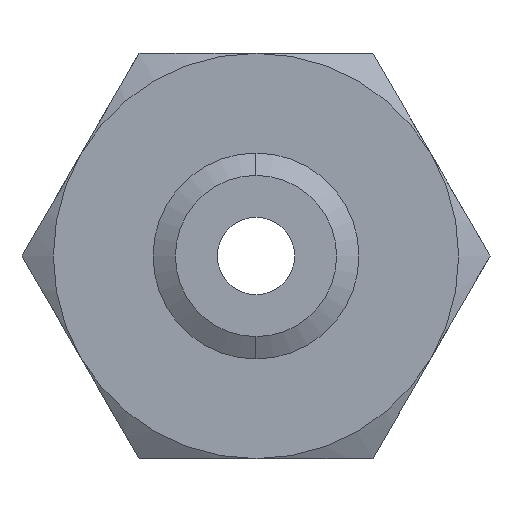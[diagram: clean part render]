
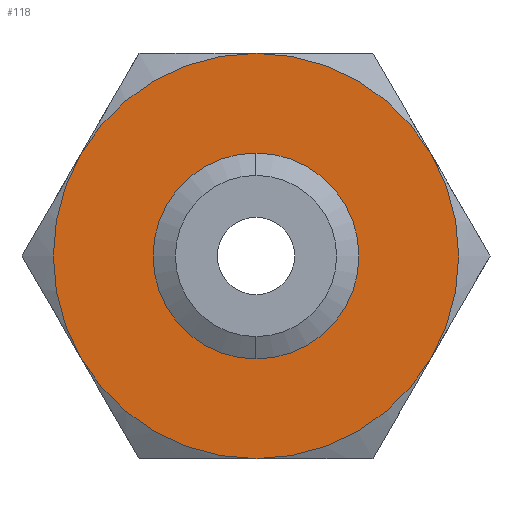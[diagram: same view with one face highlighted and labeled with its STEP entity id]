
A CAD part, front view. The second image highlights one B-rep face of the part: STEP entity #118.
In plain terms, the highlighted planar face has unit normal (0, -1, 0).
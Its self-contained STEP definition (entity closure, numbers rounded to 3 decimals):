
#77 = ORIENTED_EDGE ( 'NONE', *, *, #78, .F. ) ;
#78 = EDGE_CURVE ( 'NONE', #127, #126, #446, .T. ) ;
#79 = ORIENTED_EDGE ( 'NONE', *, *, #80, .F. ) ;
#80 = EDGE_CURVE ( 'NONE', #81, #127, #441, .T. ) ;
#81 = VERTEX_POINT ( 'NONE', #436 ) ;
#82 = ORIENTED_EDGE ( 'NONE', *, *, #83, .F. ) ;
#83 = EDGE_CURVE ( 'NONE', #84, #81, #435, .T. ) ;
#84 = VERTEX_POINT ( 'NONE', #430 ) ;
#101 = ORIENTED_EDGE ( 'NONE', *, *, #104, .F. ) ;
#102 = EDGE_CURVE ( 'NONE', #1844, #1845, #468, .T. ) ;
#103 = EDGE_LOOP ( 'NONE', ( #105, #177 ) ) ;
#104 = EDGE_CURVE ( 'NONE', #123, #84, #463, .T. ) ;
#105 = ORIENTED_EDGE ( 'NONE', *, *, #1851, .F. ) ;
#118 = ADVANCED_FACE ( 'NONE', ( #498, #497 ), #496, .F. ) ;
#119 = EDGE_LOOP ( 'NONE', ( #120, #124, #77, #79, #82, #101 ) ) ;
#120 = ORIENTED_EDGE ( 'NONE', *, *, #121, .F. ) ;
#121 = EDGE_CURVE ( 'NONE', #122, #123, #493, .T. ) ;
#122 = VERTEX_POINT ( 'NONE', #486 ) ;
#123 = VERTEX_POINT ( 'NONE', #485 ) ;
#124 = ORIENTED_EDGE ( 'NONE', *, *, #125, .F. ) ;
#125 = EDGE_CURVE ( 'NONE', #126, #122, #545, .T. ) ;
#126 = VERTEX_POINT ( 'NONE', #540 ) ;
#127 = VERTEX_POINT ( 'NONE', #539 ) ;
#177 = ORIENTED_EDGE ( 'NONE', *, *, #102, .F. ) ;
#430 = CARTESIAN_POINT ( 'NONE',  ( 21.651, 0., -12.5 ) ) ;
#431 = DIRECTION ( 'NONE',  ( 0., 0., 1. ) ) ;
#432 = DIRECTION ( 'NONE',  ( 0., 1., 0. ) ) ;
#433 = CARTESIAN_POINT ( 'NONE',  ( 0., 0., 0. ) ) ;
#434 = AXIS2_PLACEMENT_3D ( 'NONE', #433, #432, #431 ) ;
#435 = CIRCLE ( 'NONE', #434, 25. ) ;
#436 = CARTESIAN_POINT ( 'NONE',  ( 0., 0., -25. ) ) ;
#437 = DIRECTION ( 'NONE',  ( 0., 0., 1. ) ) ;
#438 = DIRECTION ( 'NONE',  ( 0., 1., 0. ) ) ;
#439 = CARTESIAN_POINT ( 'NONE',  ( 0., 0., 0. ) ) ;
#440 = AXIS2_PLACEMENT_3D ( 'NONE', #439, #438, #437 ) ;
#441 = CIRCLE ( 'NONE', #440, 25. ) ;
#442 = DIRECTION ( 'NONE',  ( 0., 0., 1. ) ) ;
#443 = DIRECTION ( 'NONE',  ( 0., 1., 0. ) ) ;
#444 = CARTESIAN_POINT ( 'NONE',  ( 0., 0., 0. ) ) ;
#445 = AXIS2_PLACEMENT_3D ( 'NONE', #444, #443, #442 ) ;
#446 = CIRCLE ( 'NONE', #445, 25. ) ;
#459 = DIRECTION ( 'NONE',  ( 0., 0., 1. ) ) ;
#460 = DIRECTION ( 'NONE',  ( 0., 1., 0. ) ) ;
#461 = CARTESIAN_POINT ( 'NONE',  ( 0., 0., 0. ) ) ;
#462 = AXIS2_PLACEMENT_3D ( 'NONE', #461, #460, #459 ) ;
#463 = CIRCLE ( 'NONE', #462, 25. ) ;
#464 = DIRECTION ( 'NONE',  ( 0., 0., -1. ) ) ;
#465 = DIRECTION ( 'NONE',  ( 0., -1., 0. ) ) ;
#466 = CARTESIAN_POINT ( 'NONE',  ( 0., 0., 0. ) ) ;
#467 = AXIS2_PLACEMENT_3D ( 'NONE', #466, #465, #464 ) ;
#468 = CIRCLE ( 'NONE', #467, 9.946 ) ;
#485 = CARTESIAN_POINT ( 'NONE',  ( 21.651, 0., 12.5 ) ) ;
#486 = CARTESIAN_POINT ( 'NONE',  ( 0., 0., 25. ) ) ;
#487 = DIRECTION ( 'NONE',  ( 0., 0., 1. ) ) ;
#488 = DIRECTION ( 'NONE',  ( 0., 1., 0. ) ) ;
#489 = CARTESIAN_POINT ( 'NONE',  ( 0., 0., 0. ) ) ;
#490 = AXIS2_PLACEMENT_3D ( 'NONE', #489, #488, #487 ) ;
#491 = DIRECTION ( 'NONE',  ( 0., 0., 1. ) ) ;
#492 = DIRECTION ( 'NONE',  ( 0., 1., 0. ) ) ;
#493 = CIRCLE ( 'NONE', #490, 25. ) ;
#494 = CARTESIAN_POINT ( 'NONE',  ( 14.434, 0., -25. ) ) ;
#495 = AXIS2_PLACEMENT_3D ( 'NONE', #494, #492, #491 ) ;
#496 = PLANE ( 'NONE',  #495 ) ;
#497 = FACE_BOUND ( 'NONE', #103, .T. ) ;
#498 = FACE_OUTER_BOUND ( 'NONE', #119, .T. ) ;
#539 = CARTESIAN_POINT ( 'NONE',  ( -21.651, 0., -12.5 ) ) ;
#540 = CARTESIAN_POINT ( 'NONE',  ( -21.651, 0., 12.5 ) ) ;
#541 = DIRECTION ( 'NONE',  ( 0., 0., 1. ) ) ;
#542 = DIRECTION ( 'NONE',  ( 0., 1., 0. ) ) ;
#543 = CARTESIAN_POINT ( 'NONE',  ( 0., 0., 0. ) ) ;
#544 = AXIS2_PLACEMENT_3D ( 'NONE', #543, #542, #541 ) ;
#545 = CIRCLE ( 'NONE', #544, 25. ) ;
#1295 = CARTESIAN_POINT ( 'NONE',  ( 0., 0., -9.946 ) ) ;
#1299 = CARTESIAN_POINT ( 'NONE',  ( 0., 0., 9.946 ) ) ;
#1341 = DIRECTION ( 'NONE',  ( 0., 0., -1. ) ) ;
#1342 = DIRECTION ( 'NONE',  ( 0., -1., 0. ) ) ;
#1343 = CARTESIAN_POINT ( 'NONE',  ( 0., 0., 0. ) ) ;
#1344 = AXIS2_PLACEMENT_3D ( 'NONE', #1343, #1342, #1341 ) ;
#1345 = CIRCLE ( 'NONE', #1344, 9.946 ) ;
#1844 = VERTEX_POINT ( 'NONE', #1299 ) ;
#1845 = VERTEX_POINT ( 'NONE', #1295 ) ;
#1851 = EDGE_CURVE ( 'NONE', #1845, #1844, #1345, .T. ) ;
